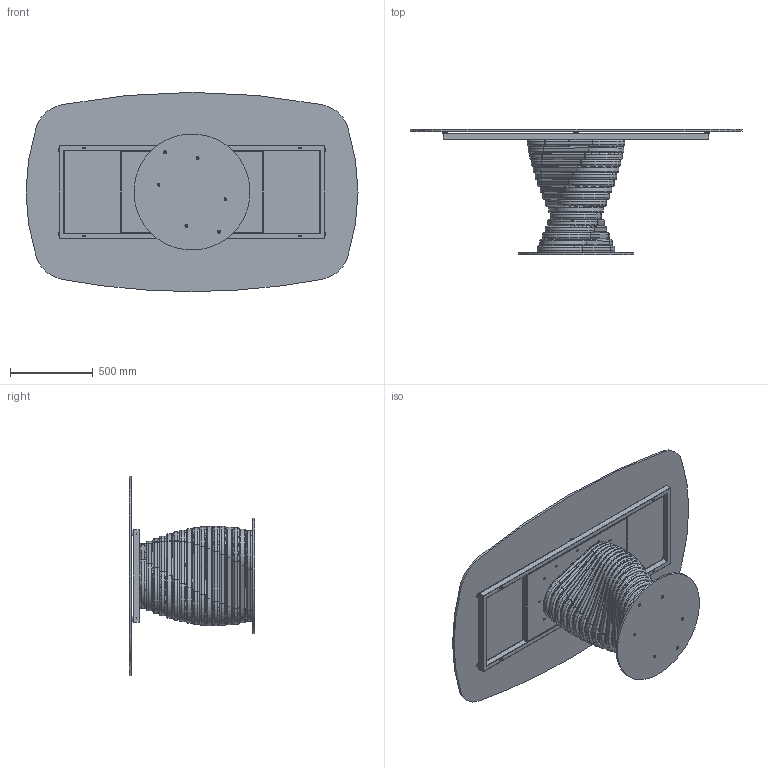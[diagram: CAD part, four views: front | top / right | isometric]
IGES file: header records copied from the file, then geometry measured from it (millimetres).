
Start section: SolidWorks IGES file using analytic representation for surfaces
Global section: file name: Y:\eforma\TECNICO\SOLIDWORKS\E-FORMA\1-TAVOLI\ROTOLO\02 parts\RO41G.IGS; native system: SolidWorks 2022; preprocessor: SolidWorks 2022; author: eforma.tech; date: 240807.154045; units: millimetre
Bounding box: 2000 x 754 x 1200 mm (x, y, z)
Volume: 39209809.8 mm3; surface area: 12256368.4 mm2
Topology: 98 solids, 98 shells, 1497 faces, 3551 edges, 2224 vertices
Faces by surface type: revolution 883, plane 614
